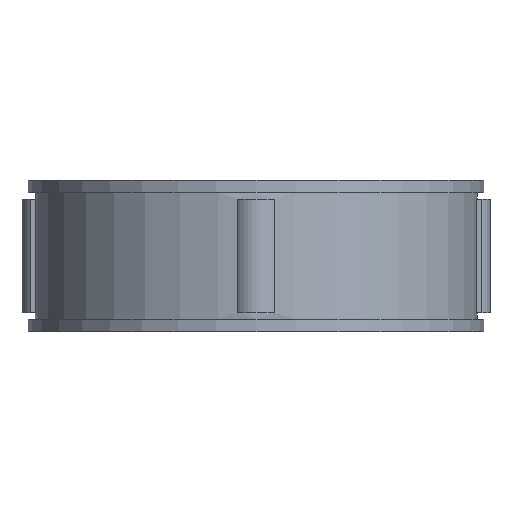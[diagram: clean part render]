
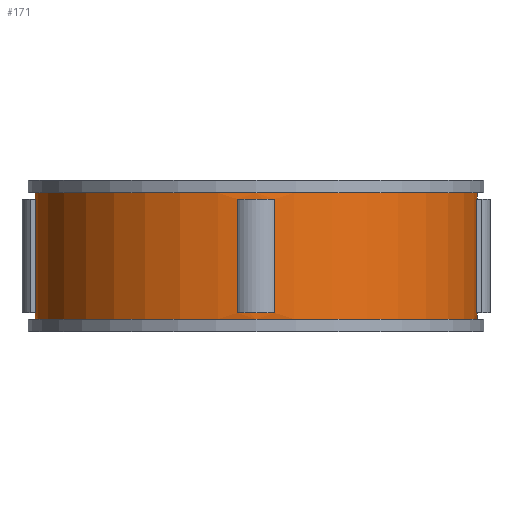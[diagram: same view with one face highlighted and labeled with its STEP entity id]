
A CAD part, front view. The second image highlights one B-rep face of the part: STEP entity #171.
In plain terms, the highlighted cylindrical face has radius 17.5 mm (diameter 35 mm), a full revolution.
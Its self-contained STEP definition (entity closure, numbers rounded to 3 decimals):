
#171=ADVANCED_FACE('',(#359,#360,#361,#362,#363,#364),#219,.T.);
#219=CYLINDRICAL_SURFACE('',#882,17.5);
#231=LINE('',#1207,#295);
#232=LINE('',#1212,#296);
#233=LINE('',#1215,#297);
#234=LINE('',#1220,#298);
#235=LINE('',#1223,#299);
#236=LINE('',#1228,#300);
#237=LINE('',#1234,#301);
#238=LINE('',#1238,#302);
#295=VECTOR('',#966,1.);
#296=VECTOR('',#969,1.);
#297=VECTOR('',#972,1.);
#298=VECTOR('',#975,1.);
#299=VECTOR('',#978,1.);
#300=VECTOR('',#981,1.);
#301=VECTOR('',#986,1.);
#302=VECTOR('',#989,1.);
#359=FACE_BOUND('',#383,.T.);
#360=FACE_BOUND('',#384,.T.);
#361=FACE_BOUND('',#385,.T.);
#362=FACE_BOUND('',#386,.T.);
#363=FACE_BOUND('',#387,.T.);
#364=FACE_BOUND('',#388,.T.);
#383=EDGE_LOOP('',(#447));
#384=EDGE_LOOP('',(#448));
#385=EDGE_LOOP('',(#449,#450,#451,#452));
#386=EDGE_LOOP('',(#453,#454,#455,#456));
#387=EDGE_LOOP('',(#457,#458,#459,#460));
#388=EDGE_LOOP('',(#461,#462,#463,#464));
#447=ORIENTED_EDGE('',*,*,#727,.F.);
#448=ORIENTED_EDGE('',*,*,#728,.T.);
#449=ORIENTED_EDGE('',*,*,#729,.F.);
#450=ORIENTED_EDGE('',*,*,#730,.T.);
#451=ORIENTED_EDGE('',*,*,#731,.F.);
#452=ORIENTED_EDGE('',*,*,#732,.F.);
#453=ORIENTED_EDGE('',*,*,#733,.F.);
#454=ORIENTED_EDGE('',*,*,#734,.T.);
#455=ORIENTED_EDGE('',*,*,#735,.F.);
#456=ORIENTED_EDGE('',*,*,#736,.F.);
#457=ORIENTED_EDGE('',*,*,#737,.F.);
#458=ORIENTED_EDGE('',*,*,#738,.T.);
#459=ORIENTED_EDGE('',*,*,#739,.F.);
#460=ORIENTED_EDGE('',*,*,#740,.F.);
#461=ORIENTED_EDGE('',*,*,#741,.F.);
#462=ORIENTED_EDGE('',*,*,#742,.T.);
#463=ORIENTED_EDGE('',*,*,#743,.T.);
#464=ORIENTED_EDGE('',*,*,#744,.T.);
#655=VERTEX_POINT('',#1204);
#656=VERTEX_POINT('',#1206);
#657=VERTEX_POINT('',#1208);
#658=VERTEX_POINT('',#1209);
#659=VERTEX_POINT('',#1211);
#660=VERTEX_POINT('',#1213);
#661=VERTEX_POINT('',#1216);
#662=VERTEX_POINT('',#1217);
#663=VERTEX_POINT('',#1219);
#664=VERTEX_POINT('',#1221);
#665=VERTEX_POINT('',#1224);
#666=VERTEX_POINT('',#1225);
#667=VERTEX_POINT('',#1227);
#668=VERTEX_POINT('',#1229);
#669=VERTEX_POINT('',#1232);
#670=VERTEX_POINT('',#1233);
#671=VERTEX_POINT('',#1235);
#672=VERTEX_POINT('',#1237);
#727=EDGE_CURVE('',#655,#655,#831,.T.);
#728=EDGE_CURVE('',#656,#656,#832,.T.);
#729=EDGE_CURVE('',#657,#658,#231,.T.);
#730=EDGE_CURVE('',#657,#659,#833,.T.);
#731=EDGE_CURVE('',#660,#659,#232,.T.);
#732=EDGE_CURVE('',#658,#660,#834,.T.);
#733=EDGE_CURVE('',#661,#662,#233,.T.);
#734=EDGE_CURVE('',#661,#663,#835,.T.);
#735=EDGE_CURVE('',#664,#663,#234,.T.);
#736=EDGE_CURVE('',#662,#664,#836,.T.);
#737=EDGE_CURVE('',#665,#666,#235,.T.);
#738=EDGE_CURVE('',#665,#667,#837,.T.);
#739=EDGE_CURVE('',#668,#667,#236,.T.);
#740=EDGE_CURVE('',#666,#668,#838,.T.);
#741=EDGE_CURVE('',#669,#670,#839,.T.);
#742=EDGE_CURVE('',#669,#671,#237,.T.);
#743=EDGE_CURVE('',#671,#672,#840,.T.);
#744=EDGE_CURVE('',#672,#670,#238,.T.);
#831=CIRCLE('',#872,17.5);
#832=CIRCLE('',#873,17.5);
#833=CIRCLE('',#874,17.5);
#834=CIRCLE('',#875,17.5);
#835=CIRCLE('',#876,17.5);
#836=CIRCLE('',#877,17.5);
#837=CIRCLE('',#878,17.5);
#838=CIRCLE('',#879,17.5);
#839=CIRCLE('',#880,17.5);
#840=CIRCLE('',#881,17.5);
#872=AXIS2_PLACEMENT_3D('',#1203,#962,#963);
#873=AXIS2_PLACEMENT_3D('',#1205,#964,#965);
#874=AXIS2_PLACEMENT_3D('',#1210,#967,#968);
#875=AXIS2_PLACEMENT_3D('',#1214,#970,#971);
#876=AXIS2_PLACEMENT_3D('',#1218,#973,#974);
#877=AXIS2_PLACEMENT_3D('',#1222,#976,#977);
#878=AXIS2_PLACEMENT_3D('',#1226,#979,#980);
#879=AXIS2_PLACEMENT_3D('',#1230,#982,#983);
#880=AXIS2_PLACEMENT_3D('',#1231,#984,#985);
#881=AXIS2_PLACEMENT_3D('',#1236,#987,#988);
#882=AXIS2_PLACEMENT_3D('',#1239,#990,#991);
#962=DIRECTION('',(0.,0.,1.));
#963=DIRECTION('',(1.,0.,0.));
#964=DIRECTION('',(0.,0.,1.));
#965=DIRECTION('',(1.,0.,0.));
#966=DIRECTION('',(0.,0.,-1.));
#967=DIRECTION('',(0.,0.,1.));
#968=DIRECTION('',(1.,0.,0.));
#969=DIRECTION('',(0.,0.,1.));
#970=DIRECTION('',(0.,0.,1.));
#971=DIRECTION('',(1.,0.,0.));
#972=DIRECTION('',(0.,0.,-1.));
#973=DIRECTION('',(0.,0.,1.));
#974=DIRECTION('',(1.,0.,0.));
#975=DIRECTION('',(0.,0.,1.));
#976=DIRECTION('',(0.,0.,1.));
#977=DIRECTION('',(1.,0.,0.));
#978=DIRECTION('',(0.,0.,-1.));
#979=DIRECTION('',(0.,0.,1.));
#980=DIRECTION('',(1.,0.,0.));
#981=DIRECTION('',(0.,0.,1.));
#982=DIRECTION('',(0.,0.,1.));
#983=DIRECTION('',(1.,0.,0.));
#984=DIRECTION('',(0.,0.,-1.));
#985=DIRECTION('',(-1.,0.,0.));
#986=DIRECTION('',(0.,0.,-1.));
#987=DIRECTION('',(0.,0.,-1.));
#988=DIRECTION('',(-1.,0.,0.));
#989=DIRECTION('',(0.,0.,1.));
#990=DIRECTION('',(0.,0.,-1.));
#991=DIRECTION('',(-1.,0.,0.));
#1203=CARTESIAN_POINT('',(0.,0.,11.));
#1204=CARTESIAN_POINT('',(17.5,0.,11.));
#1205=CARTESIAN_POINT('',(0.,0.,1.));
#1206=CARTESIAN_POINT('',(17.5,0.,1.));
#1207=CARTESIAN_POINT('',(17.438,-1.471,12.));
#1208=CARTESIAN_POINT('',(17.438,-1.471,10.5));
#1209=CARTESIAN_POINT('',(17.438,-1.471,1.5));
#1210=CARTESIAN_POINT('',(0.,0.,10.5));
#1211=CARTESIAN_POINT('',(17.438,1.471,10.5));
#1212=CARTESIAN_POINT('',(17.438,1.471,12.));
#1213=CARTESIAN_POINT('',(17.438,1.471,1.5));
#1214=CARTESIAN_POINT('',(0.,0.,1.5));
#1215=CARTESIAN_POINT('',(1.471,17.438,12.));
#1216=CARTESIAN_POINT('',(1.471,17.438,10.5));
#1217=CARTESIAN_POINT('',(1.471,17.438,1.5));
#1218=CARTESIAN_POINT('',(0.,0.,10.5));
#1219=CARTESIAN_POINT('',(-1.471,17.438,10.5));
#1220=CARTESIAN_POINT('',(-1.471,17.438,12.));
#1221=CARTESIAN_POINT('',(-1.471,17.438,1.5));
#1222=CARTESIAN_POINT('',(0.,0.,1.5));
#1223=CARTESIAN_POINT('',(-17.438,1.471,12.));
#1224=CARTESIAN_POINT('',(-17.438,1.471,10.5));
#1225=CARTESIAN_POINT('',(-17.438,1.471,1.5));
#1226=CARTESIAN_POINT('',(0.,0.,10.5));
#1227=CARTESIAN_POINT('',(-17.438,-1.471,10.5));
#1228=CARTESIAN_POINT('',(-17.438,-1.471,12.));
#1229=CARTESIAN_POINT('',(-17.438,-1.471,1.5));
#1230=CARTESIAN_POINT('',(0.,0.,1.5));
#1231=CARTESIAN_POINT('',(0.,0.,10.5));
#1232=CARTESIAN_POINT('',(1.471,-17.438,10.5));
#1233=CARTESIAN_POINT('',(-1.471,-17.438,10.5));
#1234=CARTESIAN_POINT('',(1.471,-17.438,12.));
#1235=CARTESIAN_POINT('',(1.471,-17.438,1.5));
#1236=CARTESIAN_POINT('',(0.,0.,1.5));
#1237=CARTESIAN_POINT('',(-1.471,-17.438,1.5));
#1238=CARTESIAN_POINT('',(-1.471,-17.438,12.));
#1239=CARTESIAN_POINT('',(0.,0.,12.));
